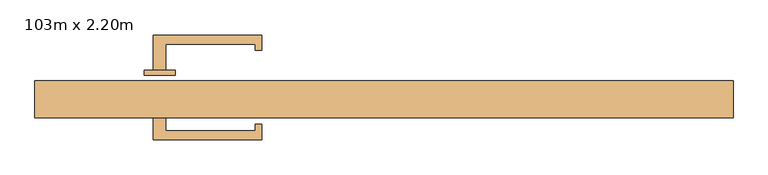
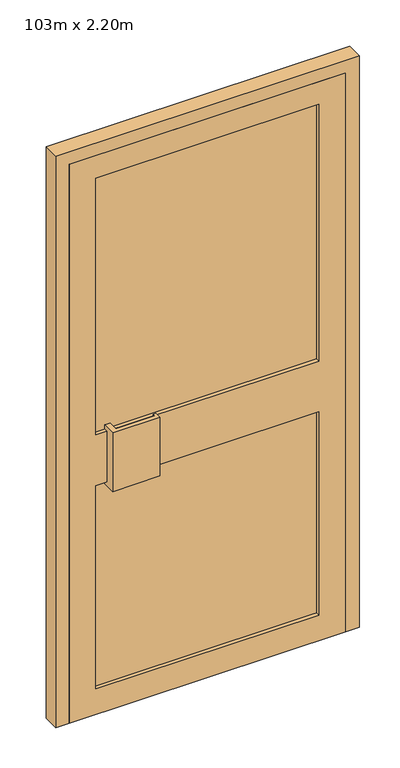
"""IFC4 building model written with IfcOpenShell, lengths in millimetres: door geometry, PVC Panneau Vitré - Traverse : 103m x 2.20m."""

from ifc_helpers import new_model, si_unit, point, frame, origin, place, context, project, spatial, polyline, ellipse_curve, trimmed, outline, extrude, faceted_brep, source, transform, mapped, element, save
from ifc_brep_helpers import plane_surface, extruded_surface, advanced_brep


def door_103m_x_2_20m_4d5dba2b(model_context):
    return source(origin(), model_context, "Body", "SolidModel", [
        advanced_brep(
        [(-338.2140438, -40.7312497, 875.0), (-338.2140438, -40.7312497, 1125.0), (-388.2140438, -40.7312497, 1125.0), (-388.2140438, -40.7312497, 875.0), (-363.1067757, -40.7312497, 953.6170149), (-363.1067757, -40.7312497, 913.6170149), (-338.2140438, -32.7312497, 875.0), (-388.2140438, -32.7312497, 875.0), (-388.2140438, -32.7312497, 1125.0), (-338.2140438, -32.7312497, 1125.0), (-363.1067757, -32.7312497, 953.6170149), (-363.1067757, -32.7312497, 913.6170149)],
        [
            (0, 1),
            (1, 2),
            (2, 3),
            (3, 0),
            (4, 5, ellipse_curve(frame((-363.1067757, -40.7312497, 933.6170149), z_axis=(0.0, 1.0, 0.0), x_axis=(0.0, 0.0, -1.0)), 20.0, 7.0010983)),
            (5, 4, ellipse_curve(frame((-363.1067757, -40.7312497, 933.6170149), z_axis=(0.0, 1.0, 0.0), x_axis=(0.0, 0.0, -1.0)), 20.0, 7.0010983)),
            (6, 7),
            (7, 8),
            (8, 9),
            (9, 6),
            (10, 11, ellipse_curve(frame((-363.1067757, -32.7312497, 933.6170149), z_axis=(0.0, -1.0, 0.0), x_axis=(0.0, 0.0, -1.0)), 20.0, 7.0010983)),
            (11, 10, ellipse_curve(frame((-363.1067757, -32.7312497, 933.6170149), z_axis=(0.0, -1.0, 0.0), x_axis=(0.0, 0.0, -1.0)), 20.0, 7.0010983)),
            (0, 6),
            (9, 1),
            (8, 2),
            (7, 3),
            (4, 10),
            (11, 5),
        ],
        [
            plane_surface(frame((-338.2140438, -40.7312497, 1100.0), z_axis=(0.0, -1.0, 0.0), x_axis=(0.0, 0.0, 1.0))),
            plane_surface(frame((-338.2140438, -32.7312497, 1100.0), z_axis=(0.0, 1.0, 0.0), x_axis=(0.0, 0.0, -1.0))),
            plane_surface(frame((-338.2140438, -40.7312497, 875.0), z_axis=(1.0, 0.0, 0.0), x_axis=(0.0, 1.0, 0.0))),
            plane_surface(frame((-338.2140438, -40.7312497, 1125.0), z_axis=(0.0, 0.0, 1.0), x_axis=(0.0, 1.0, 0.0))),
            plane_surface(frame((-388.2140438, -40.7312497, 1125.0), z_axis=(-1.0, 0.0, 0.0), x_axis=(0.0, 1.0, 0.0))),
            plane_surface(frame((-388.2140438, -40.7312497, 875.0), z_axis=(0.0, 0.0, -1.0), x_axis=(0.0, 1.0, 0.0))),
            extruded_surface(trimmed(ellipse_curve(frame((-363.1067757, -24.7312497, 933.6170149), z_axis=(0.0, 1.0, 0.0), x_axis=(0.0, 0.0, -1.0)), 20.0, 7.0010983), [point((-363.1067757, -24.7312497, 953.6170149))], [point((-363.1067757, -24.7312497, 913.6170149))], True, "CARTESIAN"), (0.0, -8.0, 0.0), 8.0),
            extruded_surface(trimmed(ellipse_curve(frame((-363.1067757, -24.7312497, 933.6170149), z_axis=(0.0, 1.0, 0.0), x_axis=(0.0, 0.0, -1.0)), 20.0, 7.0010983), [point((-363.1067757, -24.7312497, 913.6170149))], [point((-363.1067757, -24.7312497, 953.6170149))], True, "CARTESIAN"), (0.0, -8.0, 0.0), 8.0),
        ],
        [
            (0, [[1, 2, 3, 4], [5, 6]]),
            (1, [[7, 8, 9, 10], [11, 12]]),
            (2, [[-1, 13, -10, 14]]),
            (3, [[-2, -14, -9, 15]]),
            (4, [[-3, -15, -8, 16]]),
            (5, [[-4, -16, -7, -13]]),
            (6, [[-5, 17, -12, 18]]),
            (7, [[-6, -18, -11, -17]]),
        ],
    ),
        extrude(outline(polyline([(-373.5, 24.0969165), (-198.2140438, 24.0969165), (-198.2140438, -0.9030835), (-208.2140438, -0.9030835), (-208.2140438, 9.0969165), (-353.5, 9.0969165), (-353.5, -32.7312497), (-373.5, -32.7312497), (-373.5, 24.0969165)])), frame((0.0, 0.0, 883.8962493), z_axis=(0.0, 0.0, 1.0), x_axis=(1.0, 0.0, 0.0)), (0.0, 0.0, 1.0), 231.5058955),
        extrude(outline(polyline([(-373.5, -145.5594159), (-373.5, -88.7312497), (-353.5, -88.7312497), (-353.5, -130.5594159), (-208.2140438, -130.5594159), (-208.2140438, -120.5594159), (-198.2140438, -120.5594159), (-198.2140438, -145.5594159), (-373.5, -145.5594159)])), frame((0.0, 0.0, 883.8962493), z_axis=(0.0, 0.0, 1.0), x_axis=(1.0, 0.0, 0.0)), (0.0, 0.0, 1.0), 231.5058955),
        advanced_brep(
        [(-338.2140438, -88.7312497, 875.0), (-338.2140438, -88.7312497, 1125.0), (-388.2140438, -88.7312497, 1125.0), (-388.2140438, -88.7312497, 875.0), (-363.1067757, -88.7312497, 953.6170149), (-363.1067757, -88.7312497, 913.6170149), (-338.2140438, -80.7312497, 875.0), (-388.2140438, -80.7312497, 875.0), (-388.2140438, -80.7312497, 1125.0), (-338.2140438, -80.7312497, 1125.0), (-363.1067757, -80.7312497, 953.6170149), (-363.1067757, -80.7312497, 913.6170149)],
        [
            (0, 1),
            (1, 2),
            (2, 3),
            (3, 0),
            (4, 5, ellipse_curve(frame((-363.1067757, -88.7312497, 933.6170149), z_axis=(0.0, 1.0, 0.0), x_axis=(0.0, 0.0, -1.0)), 20.0, 7.0010983)),
            (5, 4, ellipse_curve(frame((-363.1067757, -88.7312497, 933.6170149), z_axis=(0.0, 1.0, 0.0), x_axis=(0.0, 0.0, -1.0)), 20.0, 7.0010983)),
            (6, 7),
            (7, 8),
            (8, 9),
            (9, 6),
            (10, 11, ellipse_curve(frame((-363.1067757, -80.7312497, 933.6170149), z_axis=(0.0, -1.0, 0.0), x_axis=(0.0, 0.0, -1.0)), 20.0, 7.0010983)),
            (11, 10, ellipse_curve(frame((-363.1067757, -80.7312497, 933.6170149), z_axis=(0.0, -1.0, 0.0), x_axis=(0.0, 0.0, -1.0)), 20.0, 7.0010983)),
            (0, 6),
            (9, 1),
            (8, 2),
            (7, 3),
            (4, 10),
            (11, 5),
        ],
        [
            plane_surface(frame((-338.2140438, -88.7312497, 1100.0), z_axis=(0.0, -1.0, 0.0), x_axis=(0.0, 0.0, 1.0))),
            plane_surface(frame((-338.2140438, -80.7312497, 1100.0), z_axis=(0.0, 1.0, 0.0), x_axis=(0.0, 0.0, -1.0))),
            plane_surface(frame((-338.2140438, -88.7312497, 875.0), z_axis=(1.0, 0.0, 0.0), x_axis=(0.0, 1.0, 0.0))),
            plane_surface(frame((-338.2140438, -88.7312497, 1125.0), z_axis=(0.0, 0.0, 1.0), x_axis=(0.0, 1.0, 0.0))),
            plane_surface(frame((-388.2140438, -88.7312497, 1125.0), z_axis=(-1.0, 0.0, 0.0), x_axis=(0.0, 1.0, 0.0))),
            plane_surface(frame((-388.2140438, -88.7312497, 875.0), z_axis=(0.0, 0.0, -1.0), x_axis=(0.0, 1.0, 0.0))),
            extruded_surface(trimmed(ellipse_curve(frame((-363.1067757, -72.7312497, 933.6170149), z_axis=(0.0, 1.0, 0.0), x_axis=(0.0, 0.0, -1.0)), 20.0, 7.0010983), [point((-363.1067757, -72.7312497, 953.6170149))], [point((-363.1067757, -72.7312497, 913.6170149))], True, "CARTESIAN"), (0.0, -8.0, 0.0), 8.0),
            extruded_surface(trimmed(ellipse_curve(frame((-363.1067757, -72.7312497, 933.6170149), z_axis=(0.0, 1.0, 0.0), x_axis=(0.0, 0.0, -1.0)), 20.0, 7.0010983), [point((-363.1067757, -72.7312497, 913.6170149))], [point((-363.1067757, -72.7312497, 953.6170149))], True, "CARTESIAN"), (0.0, -8.0, 0.0), 8.0),
        ],
        [
            (0, [[1, 2, 3, 4], [5, 6]]),
            (1, [[7, 8, 9, 10], [11, 12]]),
            (2, [[-1, 13, -10, 14]]),
            (3, [[-2, -14, -9, 15]]),
            (4, [[-3, -15, -8, 16]]),
            (5, [[-4, -16, -7, -13]]),
            (6, [[-5, 17, -12, 18]]),
            (7, [[-6, -18, -11, -17]]),
        ],
    ),
        faceted_brep([(-565.0, -110.0, 0.0), (-565.0, -50.0, 0.0), (-500.0, -50.0, 0.0), (-500.0, -70.0, 0.0), (-515.0, -70.0, 0.0), (-515.0, -110.0, 0.0), (-565.0, -110.0, 2250.0), (-565.0, -50.0, 2250.0), (565.0, -50.0, 2250.0), (565.0, -50.0, 0.0), (500.0, -50.0, 0.0), (500.0, -50.0, 2185.0), (-500.0, -50.0, 2185.0), (-500.0, -70.0, 2185.0), (500.0, -70.0, 2185.0), (500.0, -70.0, 0.0), (515.0, -70.0, 0.0), (515.0, -70.0, 2200.0), (-515.0, -70.0, 2200.0), (-515.0, -110.0, 2200.0), (515.0, -110.0, 2200.0), (515.0, -110.0, 0.0), (565.0, -110.0, 0.0), (565.0, -110.0, 2250.0)], [[[0, 1, 2, 3, 4, 5]], [[1, 0, 6, 7]], [[2, 1, 7, 8, 9, 10, 11, 12]], [[3, 2, 12, 13]], [[4, 3, 13, 14, 15, 16, 17, 18]], [[5, 4, 18, 19]], [[0, 5, 19, 20, 21, 22, 23, 6]], [[8, 23, 22, 9]], [[22, 21, 16, 15, 10, 9]], [[14, 11, 10, 15]], [[20, 17, 16, 21]], [[7, 6, 23, 8]], [[13, 12, 11, 14]], [[19, 18, 17, 20]]]),
        extrude(outline(polyline([(415.0, -95.0), (-415.0, -95.0), (-415.0, -85.0), (415.0, -85.0), (415.0, -95.0)])), frame((0.0, 0.0, 1100.0), z_axis=(0.0, 0.0, 1.0), x_axis=(1.0, 0.0, 0.0)), (0.0, 0.0, 1.0), 1010.0),
        extrude(outline(polyline([(415.0, -95.0), (-415.0, -95.0), (-415.0, -85.0), (415.0, -85.0), (415.0, -95.0)])), frame((0.0, 0.0, 100.0), z_axis=(0.0, 0.0, 1.0), x_axis=(1.0, 0.0, 0.0)), (0.0, 0.0, 1.0), 800.0),
        extrude(outline(polyline([(2200.0, -515.0), (0.0, -515.0), (0.0, 515.0), (2200.0, 515.0), (2200.0, -515.0)]), holes=[polyline([(2110.0, 415.0), (1100.0, 415.0), (1100.0, -415.0), (2110.0, -415.0), (2110.0, 415.0)]), polyline([(100.0, 415.0), (100.0, -415.0), (900.0, -415.0), (900.0, 415.0), (100.0, 415.0)])]), frame((0.0, -110.0, 0.0), z_axis=(0.0, 1.0, 0.0), x_axis=(0.0, 0.0, 1.0)), (0.0, 0.0, 1.0), 40.0),
    ])


if __name__ == "__main__":
    model = new_model("IFC4")
    model_context = context("Model", 3, world=origin())
    ifc_project = project(units=[si_unit("LENGTHUNIT", "METRE", prefix="MILLI")], contexts=[model_context])
    site = spatial("IfcSite", under=ifc_project)
    building = spatial("IfcBuilding", under=site)
    placement = place(None, origin())
    door_103m_x_2_20m_shape = door_103m_x_2_20m_4d5dba2b(model_context)
    element("IfcDoor", 1, ObjectType="PVC Panneau Vitré - Traverse : 103m x 2.20m", at=placement, inside=building, context=model_context, shape_type="MappedRepresentation", body=[
        mapped(door_103m_x_2_20m_shape, transform((0.0, 0.0, 0.0), x_axis=(1.0, 0.0, 0.0), y_axis=(0.0, 1.0, 0.0), z_axis=(0.0, 0.0, 1.0))),
    ])
    save(model, "model.ifc")
